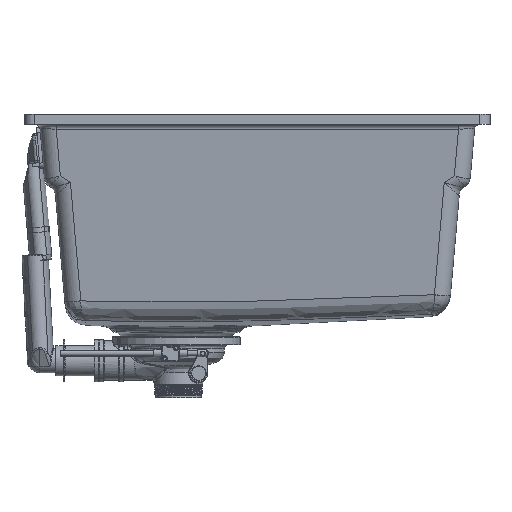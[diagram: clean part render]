
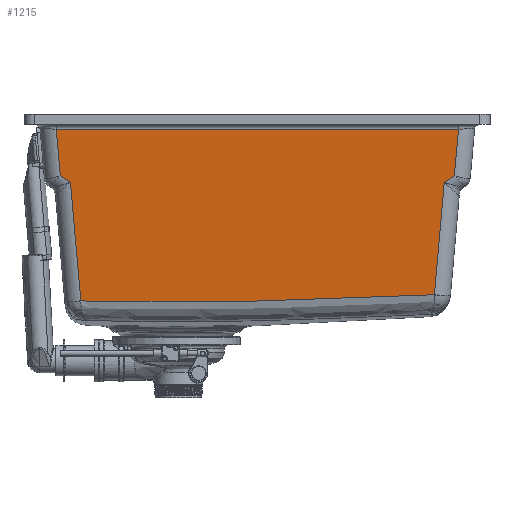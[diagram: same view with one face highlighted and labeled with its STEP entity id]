
A CAD part, left-side view. The second image highlights one B-rep face of the part: STEP entity #1215.
In plain terms, the highlighted planar face has unit normal (-0.996, 0, -0.087).
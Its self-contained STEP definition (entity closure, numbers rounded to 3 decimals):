
#1215=ADVANCED_FACE('',(#3821),#44575,.T.);
#3821=FACE_OUTER_BOUND('',#6483,.T.);
#6483=EDGE_LOOP('',(#13500,#13501,#13502,#13503,#13504,#13505,#13506,#13507,
#13508));
#13500=ORIENTED_EDGE('',*,*,#24988,.F.);
#13501=ORIENTED_EDGE('',*,*,#24983,.F.);
#13502=ORIENTED_EDGE('',*,*,#24982,.F.);
#13503=ORIENTED_EDGE('',*,*,#25011,.F.);
#13504=ORIENTED_EDGE('',*,*,#25012,.F.);
#13505=ORIENTED_EDGE('',*,*,#24975,.F.);
#13506=ORIENTED_EDGE('',*,*,#24974,.F.);
#13507=ORIENTED_EDGE('',*,*,#25007,.F.);
#13508=ORIENTED_EDGE('',*,*,#25013,.T.);
#24974=EDGE_CURVE('',#40133,#40101,#35413,.T.);
#24975=EDGE_CURVE('',#40101,#40108,#35414,.T.);
#24982=EDGE_CURVE('',#40134,#40116,#35417,.T.);
#24983=EDGE_CURVE('',#40116,#40121,#35418,.T.);
#24988=EDGE_CURVE('',#40121,#40136,#35421,.T.);
#25007=EDGE_CURVE('',#40150,#40133,#35435,.T.);
#25011=EDGE_CURVE('',#40113,#40134,#35437,.T.);
#25012=EDGE_CURVE('',#40108,#40113,#35438,.T.);
#25013=EDGE_CURVE('',#40150,#40136,#35439,.T.);
#35413=B_SPLINE_CURVE_WITH_KNOTS('',1,(#79029,#79030),.UNSPECIFIED.,.F.,
 .F.,(2,2),(0.,11.937),.UNSPECIFIED.);
#35414=B_SPLINE_CURVE_WITH_KNOTS('',1,(#79031,#79032),.UNSPECIFIED.,.F.,
 .F.,(2,2),(0.,111.985),.UNSPECIFIED.);
#35417=B_SPLINE_CURVE_WITH_KNOTS('',1,(#79049,#79050),.UNSPECIFIED.,.F.,
 .F.,(2,2),(0.,118.098),.UNSPECIFIED.);
#35418=B_SPLINE_CURVE_WITH_KNOTS('',1,(#79051,#79052),.UNSPECIFIED.,.F.,
 .F.,(2,2),(0.,11.937),.UNSPECIFIED.);
#35421=B_SPLINE_CURVE_WITH_KNOTS('',1,(#79063,#79064),.UNSPECIFIED.,.F.,
 .F.,(2,2),(0.,46.451),.UNSPECIFIED.);
#35435=B_SPLINE_CURVE_WITH_KNOTS('',1,(#79149,#79150),.UNSPECIFIED.,.F.,
 .F.,(2,2),(0.,46.451),.UNSPECIFIED.);
#35437=B_SPLINE_CURVE_WITH_KNOTS('',3,(#79161,#79162,#79163,#79164),
 .UNSPECIFIED.,.F.,.F.,(4,4),(-0.094,0.),.UNSPECIFIED.);
#35438=B_SPLINE_CURVE_WITH_KNOTS('',3,(#79165,#79166,#79167,#79168,#79169,
#79170,#79171,#79172,#79173,#79174,#79175,#79176,#79177,#79178,#79179,#79180,
#79181,#79182,#79183,#79184,#79185,#79186,#79187,#79188,#79189,#79190,#79191,
#79192,#79193,#79194,#79195,#79196,#79197,#79198,#79199,#79200,#79201,#79202,
#79203,#79204),.UNSPECIFIED.,.F.,.F.,(4,3,3,3,3,3,3,3,3,3,3,3,3,4),(-349.716,
-345.697,-302.113,-263.327,-247.047,-208.719,
-174.86,-174.839,-128.072,-87.428,-86.348,
-82.551,-43.174,0.),.UNSPECIFIED.);
#35439=B_SPLINE_CURVE_WITH_KNOTS('',1,(#79205,#79206),.UNSPECIFIED.,.F.,
 .F.,(2,2),(0.,397.619),.UNSPECIFIED.);
#40101=VERTEX_POINT('',#71921);
#40108=VERTEX_POINT('',#71928);
#40113=VERTEX_POINT('',#71933);
#40116=VERTEX_POINT('',#71936);
#40121=VERTEX_POINT('',#71941);
#40133=VERTEX_POINT('',#71953);
#40134=VERTEX_POINT('',#71954);
#40136=VERTEX_POINT('',#71956);
#40150=VERTEX_POINT('',#71970);
#44575=PLANE('',#47319);
#47319=AXIS2_PLACEMENT_3D('',#71575,#51891,$);
#51891=DIRECTION('',(-0.996,0.,-0.087));
#71575=CARTESIAN_POINT('',(-173.25,-241.886,-63.147));
#71921=CARTESIAN_POINT('',(-185.147,-187.971,72.842));
#71928=CARTESIAN_POINT('',(-175.424,-178.248,-38.296));
#71933=CARTESIAN_POINT('',(-174.885,171.319,-44.456));
#71936=CARTESIAN_POINT('',(-185.147,181.582,72.842));
#71941=CARTESIAN_POINT('',(-185.715,191.582,79.336));
#71953=CARTESIAN_POINT('',(-185.715,-197.971,79.336));
#71954=CARTESIAN_POINT('',(-174.893,171.328,-44.363));
#71956=CARTESIAN_POINT('',(-189.749,195.615,125.436));
#71970=CARTESIAN_POINT('',(-189.749,-202.004,125.436));
#79029=CARTESIAN_POINT('',(-185.715,-197.971,79.336));
#79030=CARTESIAN_POINT('',(-185.147,-187.971,72.842));
#79031=CARTESIAN_POINT('',(-185.147,-187.971,72.842));
#79032=CARTESIAN_POINT('',(-175.424,-178.248,-38.296));
#79049=CARTESIAN_POINT('',(-174.893,171.328,-44.363));
#79050=CARTESIAN_POINT('',(-185.147,181.582,72.842));
#79051=CARTESIAN_POINT('',(-185.147,181.582,72.842));
#79052=CARTESIAN_POINT('',(-185.715,191.582,79.336));
#79063=CARTESIAN_POINT('',(-185.715,191.582,79.336));
#79064=CARTESIAN_POINT('',(-189.749,195.615,125.436));
#79149=CARTESIAN_POINT('',(-189.749,-202.004,125.436));
#79150=CARTESIAN_POINT('',(-185.715,-197.971,79.336));
#79161=CARTESIAN_POINT('',(-174.885,171.319,-44.456));
#79162=CARTESIAN_POINT('',(-174.888,171.322,-44.425));
#79163=CARTESIAN_POINT('',(-174.891,171.325,-44.394));
#79164=CARTESIAN_POINT('',(-174.893,171.328,-44.363));
#79165=CARTESIAN_POINT('',(-175.424,-178.248,-38.296));
#79166=CARTESIAN_POINT('',(-175.419,-176.91,-38.356));
#79167=CARTESIAN_POINT('',(-175.414,-175.571,-38.416));
#79168=CARTESIAN_POINT('',(-175.408,-174.233,-38.476));
#79169=CARTESIAN_POINT('',(-175.351,-159.72,-39.127));
#79170=CARTESIAN_POINT('',(-175.295,-145.206,-39.768));
#79171=CARTESIAN_POINT('',(-175.241,-130.691,-40.386));
#79172=CARTESIAN_POINT('',(-175.193,-117.774,-40.936));
#79173=CARTESIAN_POINT('',(-175.147,-104.856,-41.463));
#79174=CARTESIAN_POINT('',(-175.103,-91.937,-41.963));
#79175=CARTESIAN_POINT('',(-175.085,-86.515,-42.173));
#79176=CARTESIAN_POINT('',(-175.067,-81.092,-42.378));
#79177=CARTESIAN_POINT('',(-175.049,-75.669,-42.577));
#79178=CARTESIAN_POINT('',(-175.008,-62.902,-43.048));
#79179=CARTESIAN_POINT('',(-174.97,-50.134,-43.487));
#79180=CARTESIAN_POINT('',(-174.935,-37.363,-43.883));
#79181=CARTESIAN_POINT('',(-174.905,-26.083,-44.233));
#79182=CARTESIAN_POINT('',(-174.877,-14.801,-44.55));
#79183=CARTESIAN_POINT('',(-174.853,-3.518,-44.824));
#79184=CARTESIAN_POINT('',(-174.853,-3.511,-44.824));
#79185=CARTESIAN_POINT('',(-174.853,-3.504,-44.825));
#79186=CARTESIAN_POINT('',(-174.853,-3.497,-44.825));
#79187=CARTESIAN_POINT('',(-174.82,12.088,-45.204));
#79188=CARTESIAN_POINT('',(-174.794,27.674,-45.492));
#79189=CARTESIAN_POINT('',(-174.779,43.262,-45.667));
#79190=CARTESIAN_POINT('',(-174.766,56.808,-45.819));
#79191=CARTESIAN_POINT('',(-174.76,70.356,-45.886));
#79192=CARTESIAN_POINT('',(-174.763,83.904,-45.853));
#79193=CARTESIAN_POINT('',(-174.763,84.264,-45.852));
#79194=CARTESIAN_POINT('',(-174.763,84.624,-45.851));
#79195=CARTESIAN_POINT('',(-174.763,84.984,-45.85));
#79196=CARTESIAN_POINT('',(-174.763,86.25,-45.847));
#79197=CARTESIAN_POINT('',(-174.764,87.516,-45.842));
#79198=CARTESIAN_POINT('',(-174.764,88.782,-45.837));
#79199=CARTESIAN_POINT('',(-174.769,101.908,-45.783));
#79200=CARTESIAN_POINT('',(-174.782,115.032,-45.638));
#79201=CARTESIAN_POINT('',(-174.801,128.156,-45.42));
#79202=CARTESIAN_POINT('',(-174.822,142.544,-45.18));
#79203=CARTESIAN_POINT('',(-174.85,156.932,-44.852));
#79204=CARTESIAN_POINT('',(-174.885,171.319,-44.456));
#79205=CARTESIAN_POINT('',(-189.749,-202.004,125.436));
#79206=CARTESIAN_POINT('',(-189.749,195.615,125.436));
